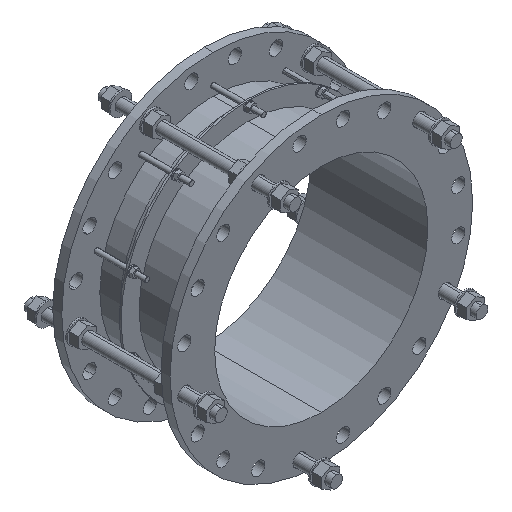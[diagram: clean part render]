
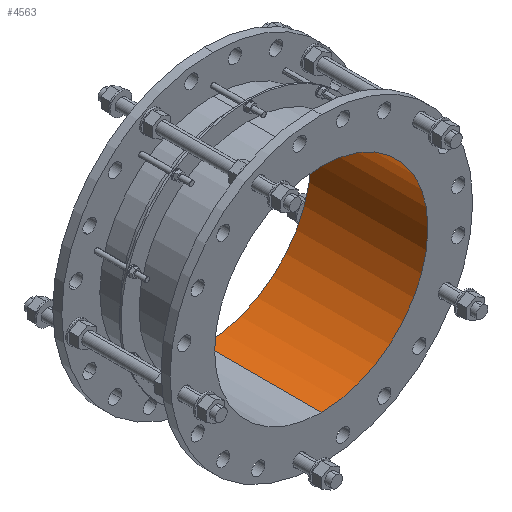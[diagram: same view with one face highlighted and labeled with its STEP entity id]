
A CAD part, isometric view. The second image highlights one B-rep face of the part: STEP entity #4563.
In plain terms, the highlighted cylindrical face has radius 273 mm (diameter 546 mm), a partial arc.
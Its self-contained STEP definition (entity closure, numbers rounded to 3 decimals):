
#7=DIRECTION('',(0.,-1.,0.));
#8=VECTOR('',#7,300.);
#9=CARTESIAN_POINT('',(0.,0.,-273.));
#10=LINE('',#9,#8);
#11=CARTESIAN_POINT('',(0.,0.,0.));
#12=DIRECTION('',(0.,-1.,0.));
#13=DIRECTION('',(0.,0.,-1.));
#14=AXIS2_PLACEMENT_3D('',#11,#12,#13);
#16=DIRECTION('',(0.,-1.,0.));
#17=VECTOR('',#16,300.);
#18=CARTESIAN_POINT('',(0.,0.,273.));
#19=LINE('',#18,#17);
#1456=CARTESIAN_POINT('',(0.,-300.,0.));
#1457=DIRECTION('',(0.,-1.,0.));
#1458=DIRECTION('',(0.,0.,-1.));
#1459=AXIS2_PLACEMENT_3D('',#1456,#1457,#1458);
#3634=CARTESIAN_POINT('',(0.,0.,-273.));
#3635=CARTESIAN_POINT('',(0.,-300.,-273.));
#3636=VERTEX_POINT('',#3634);
#3637=VERTEX_POINT('',#3635);
#3654=CARTESIAN_POINT('',(0.,0.,273.));
#3655=CARTESIAN_POINT('',(0.,-300.,273.));
#3656=VERTEX_POINT('',#3654);
#3657=VERTEX_POINT('',#3655);
#4550=CARTESIAN_POINT('',(0.,-315.,0.));
#4551=DIRECTION('',(0.,1.,0.));
#4552=DIRECTION('',(0.,0.,-1.));
#4553=AXIS2_PLACEMENT_3D('',#4550,#4551,#4552);
#4554=CYLINDRICAL_SURFACE('',#4553,273.);
#4555=ORIENTED_EDGE('',*,*,#4539,.F.);
#4557=ORIENTED_EDGE('',*,*,#4556,.T.);
#4558=ORIENTED_EDGE('',*,*,#4543,.T.);
#4560=ORIENTED_EDGE('',*,*,#4559,.F.);
#4561=EDGE_LOOP('',(#4555,#4557,#4558,#4560));
#4562=FACE_OUTER_BOUND('',#4561,.F.);
#4563=ADVANCED_FACE('',(#4562),#4554,.F.);
#15=CIRCLE('',#14,273.);
#1460=CIRCLE('',#1459,273.);
#4539=EDGE_CURVE('',#3636,#3637,#10,.T.);
#4543=EDGE_CURVE('',#3656,#3657,#19,.T.);
#4556=EDGE_CURVE('',#3636,#3656,#15,.T.);
#4559=EDGE_CURVE('',#3637,#3657,#1460,.T.);
